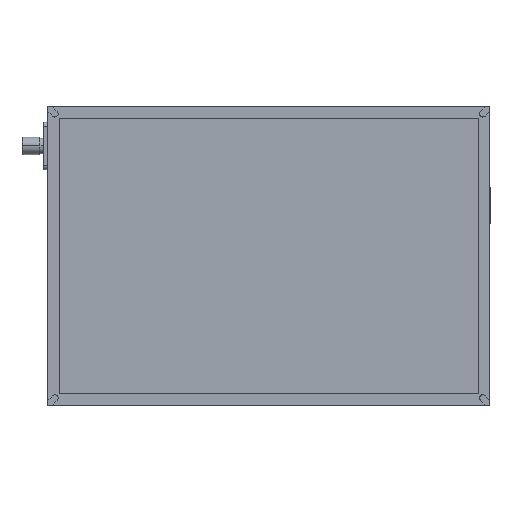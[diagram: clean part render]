
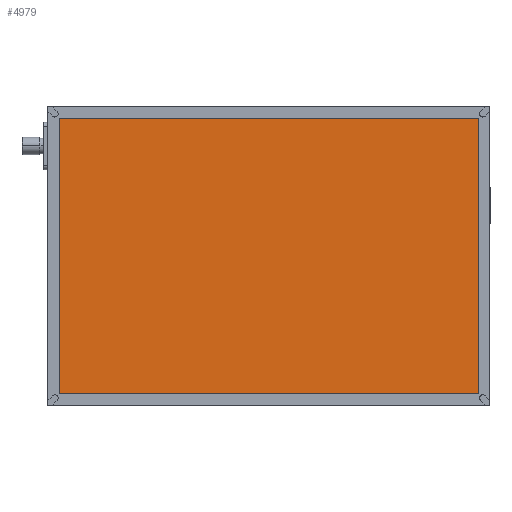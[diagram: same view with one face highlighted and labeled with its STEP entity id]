
A CAD part, top view. The second image highlights one B-rep face of the part: STEP entity #4979.
In plain terms, the highlighted planar face has unit normal (0, 0, 1).
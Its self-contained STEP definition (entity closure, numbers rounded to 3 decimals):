
#13 = EDGE_CURVE ( 'NONE', #12664, #10580, #4212, .T. ) ;
#224 = LINE ( 'NONE', #5626, #8633 ) ;
#1481 = ORIENTED_EDGE ( 'NONE', *, *, #7953, .T. ) ;
#1834 = AXIS2_PLACEMENT_3D ( 'NONE', #11324, #15413, #11490 ) ;
#2090 = EDGE_LOOP ( 'NONE', ( #1481, #3598, #10389, #3088 ) ) ;
#3088 = ORIENTED_EDGE ( 'NONE', *, *, #6483, .T. ) ;
#3480 = FACE_OUTER_BOUND ( 'NONE', #2090, .T. ) ;
#3598 = ORIENTED_EDGE ( 'NONE', *, *, #13, .T. ) ;
#4022 = VERTEX_POINT ( 'NONE', #10898 ) ;
#4182 = VECTOR ( 'NONE', #14215, 1000. ) ;
#4212 = LINE ( 'NONE', #9849, #17272 ) ;
#4959 = CARTESIAN_POINT ( 'NONE',  ( 296., 0., 41.85 ) ) ;
#4979 = ADVANCED_FACE ( 'NONE', ( #3480 ), #15578, .F. ) ;
#5597 = VECTOR ( 'NONE', #11741, 1000. ) ;
#5626 = CARTESIAN_POINT ( 'NONE',  ( 0., 4., 41.85 ) ) ;
#6385 = LINE ( 'NONE', #16996, #5597 ) ;
#6454 = LINE ( 'NONE', #4959, #4182 ) ;
#6483 = EDGE_CURVE ( 'NONE', #4022, #12282, #224, .T. ) ;
#7333 = CARTESIAN_POINT ( 'NONE',  ( 296., 4., 41.85 ) ) ;
#7953 = EDGE_CURVE ( 'NONE', #12282, #12664, #6454, .T. ) ;
#8098 = DIRECTION ( 'NONE',  ( 1., 0., 0. ) ) ;
#8633 = VECTOR ( 'NONE', #8098, 1000. ) ;
#9849 = CARTESIAN_POINT ( 'NONE',  ( 0., 196., 41.85 ) ) ;
#10389 = ORIENTED_EDGE ( 'NONE', *, *, #14307, .T. ) ;
#10580 = VERTEX_POINT ( 'NONE', #17321 ) ;
#10898 = CARTESIAN_POINT ( 'NONE',  ( 4., 4., 41.85 ) ) ;
#11324 = CARTESIAN_POINT ( 'NONE',  ( 0., 0., 41.85 ) ) ;
#11490 = DIRECTION ( 'NONE',  ( -1., 0., 0. ) ) ;
#11741 = DIRECTION ( 'NONE',  ( 0., -1., 0. ) ) ;
#12282 = VERTEX_POINT ( 'NONE', #7333 ) ;
#12584 = CARTESIAN_POINT ( 'NONE',  ( 296., 196., 41.85 ) ) ;
#12664 = VERTEX_POINT ( 'NONE', #12584 ) ;
#14215 = DIRECTION ( 'NONE',  ( 0., 1., 0. ) ) ;
#14307 = EDGE_CURVE ( 'NONE', #10580, #4022, #6385, .T. ) ;
#15252 = DIRECTION ( 'NONE',  ( -1., 0., 0. ) ) ;
#15413 = DIRECTION ( 'NONE',  ( 0., 0., -1. ) ) ;
#15578 = PLANE ( 'NONE',  #1834 ) ;
#16996 = CARTESIAN_POINT ( 'NONE',  ( 4., 0., 41.85 ) ) ;
#17272 = VECTOR ( 'NONE', #15252, 1000. ) ;
#17321 = CARTESIAN_POINT ( 'NONE',  ( 4., 196., 41.85 ) ) ;
